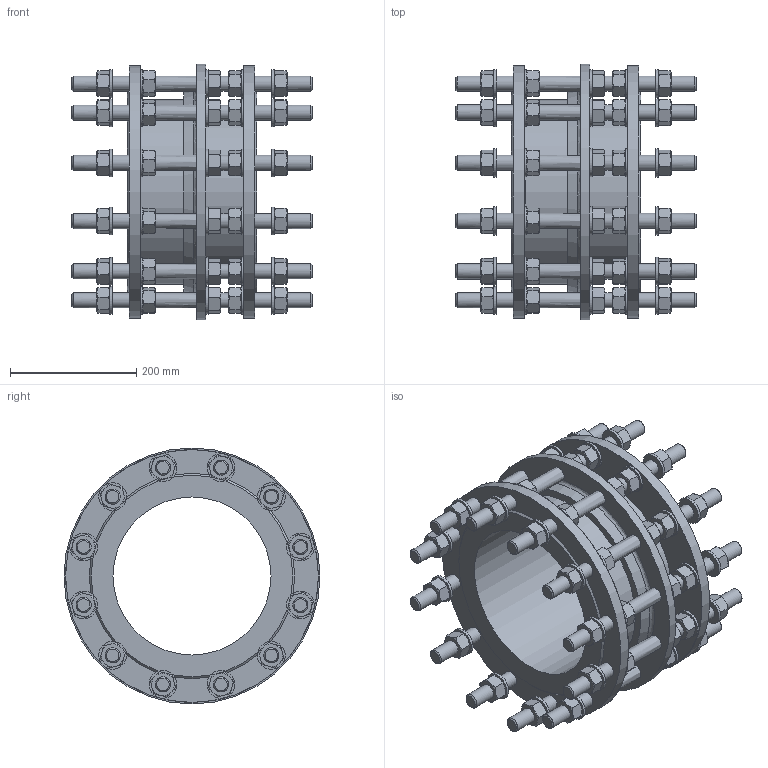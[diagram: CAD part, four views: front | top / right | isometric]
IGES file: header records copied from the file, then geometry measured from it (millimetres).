
Start section: SolidWorks IGES file using analytic representation for surfaces
Global section: file name: \\avksan2\techshare\PBM outline export from Enovia\O_265_910_DN250_1XXXXX00_L=205_REV01.igs; native system: SolidWorks 2022; preprocessor: SolidWorks 2022; author: pbm; date: 241011.105046; units: millimetre
Bounding box: 380 x 405 x 405 mm (x, y, z)
Surface area: 1179584.3 mm2 (no closed solid volume)
Topology: 0 solids, 0 shells, 1464 faces, 6198 edges, 6032 vertices
Faces by surface type: revolution 888, bspline 576
